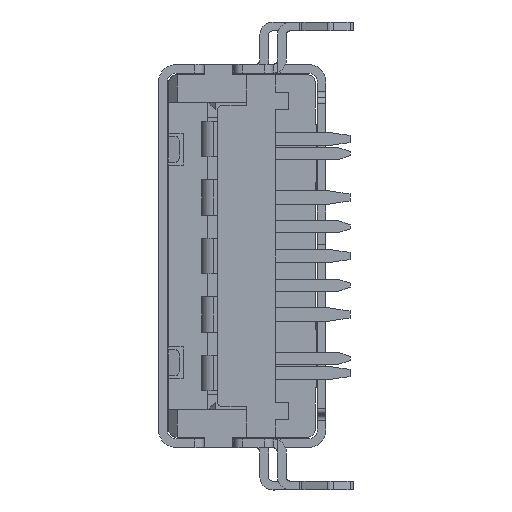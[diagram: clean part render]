
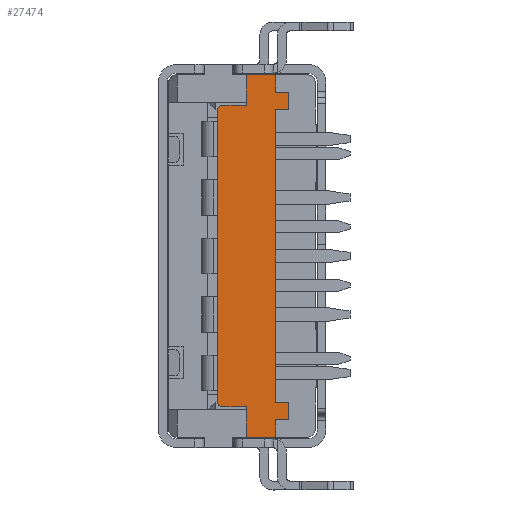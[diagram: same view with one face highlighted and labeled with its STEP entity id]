
A CAD part, left-side view. The second image highlights one B-rep face of the part: STEP entity #27474.
In plain terms, the highlighted planar face has unit normal (-1, 0, 0).
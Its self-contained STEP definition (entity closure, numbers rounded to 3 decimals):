
#2405=DIRECTION('',(0.,-1.,0.));
#2406=VECTOR('',#2405,1.);
#2407=CARTESIAN_POINT('',(-3.64,-0.15,
-6.678));
#2408=LINE('',#2407,#2406);
#2426=CARTESIAN_POINT('',(-3.64,0.65,
4.472));
#2427=DIRECTION('',(1.,0.,0.));
#2428=DIRECTION('',(0.,1.,0.));
#2429=AXIS2_PLACEMENT_3D('',#2426,#2427,#2428);
#2431=DIRECTION('',(0.,0.,1.));
#2432=VECTOR('',#2431,1.05);
#2433=CARTESIAN_POINT('',(-3.64,-0.15,
4.672));
#2434=LINE('',#2433,#2432);
#2435=DIRECTION('',(0.,-1.,0.));
#2436=VECTOR('',#2435,0.46);
#2437=CARTESIAN_POINT('',(-3.64,-1.15,
5.122));
#2438=LINE('',#2437,#2436);
#2439=DIRECTION('',(0.,0.,-1.));
#2440=VECTOR('',#2439,0.6);
#2441=CARTESIAN_POINT('',(-3.64,-1.61,
5.122));
#2442=LINE('',#2441,#2440);
#2443=DIRECTION('',(0.,1.,0.));
#2444=VECTOR('',#2443,0.46);
#2445=CARTESIAN_POINT('',(-3.64,-1.61,
4.522));
#2446=LINE('',#2445,#2444);
#2447=DIRECTION('',(0.,0.,-1.));
#2448=VECTOR('',#2447,10.);
#2449=CARTESIAN_POINT('',(-3.64,-1.15,
4.522));
#2450=LINE('',#2449,#2448);
#2451=DIRECTION('',(0.,0.,1.));
#2452=VECTOR('',#2451,1.05);
#2453=CARTESIAN_POINT('',(-3.64,-0.15,
-6.678));
#2454=LINE('',#2453,#2452);
#2455=CARTESIAN_POINT('',(-3.64,0.65,
-5.428));
#2456=DIRECTION('',(1.,0.,0.));
#2457=DIRECTION('',(0.,0.,-1.));
#2458=AXIS2_PLACEMENT_3D('',#2455,#2456,#2457);
#2488=DIRECTION('',(0.,1.,0.));
#2489=VECTOR('',#2488,0.8);
#2490=CARTESIAN_POINT('',(-3.64,-0.15,
4.672));
#2491=LINE('',#2490,#2489);
#2496=DIRECTION('',(0.,0.,-1.));
#2497=VECTOR('',#2496,9.9);
#2498=CARTESIAN_POINT('',(-3.64,0.85,
4.472));
#2499=LINE('',#2498,#2497);
#2520=DIRECTION('',(0.,-1.,0.));
#2521=VECTOR('',#2520,0.8);
#2522=CARTESIAN_POINT('',(-3.64,0.65,
-5.628));
#2523=LINE('',#2522,#2521);
#8129=DIRECTION('',(0.,1.,0.));
#8130=VECTOR('',#8129,1.);
#8131=CARTESIAN_POINT('',(-3.64,-1.15,
5.722));
#8132=LINE('',#8131,#8130);
#8198=DIRECTION('',(0.,0.,1.));
#8199=VECTOR('',#8198,0.6);
#8200=CARTESIAN_POINT('',(-3.64,-1.15,
5.122));
#8201=LINE('',#8200,#8199);
#8536=DIRECTION('',(0.,0.,1.));
#8537=VECTOR('',#8536,0.6);
#8538=CARTESIAN_POINT('',(-3.64,-1.15,
-6.678));
#8539=LINE('',#8538,#8537);
#8544=DIRECTION('',(0.,-1.,0.));
#8545=VECTOR('',#8544,0.46);
#8546=CARTESIAN_POINT('',(-3.64,-1.15,
-6.078));
#8547=LINE('',#8546,#8545);
#8656=DIRECTION('',(0.,0.,1.));
#8657=VECTOR('',#8656,0.6);
#8658=CARTESIAN_POINT('',(-3.64,-1.61,
-6.078));
#8659=LINE('',#8658,#8657);
#8668=DIRECTION('',(0.,1.,0.));
#8669=VECTOR('',#8668,0.46);
#8670=CARTESIAN_POINT('',(-3.64,-1.61,
-5.478));
#8671=LINE('',#8670,#8669);
#19503=CARTESIAN_POINT('',(-3.64,-0.15,
5.722));
#19504=VERTEX_POINT('',#19503);
#19505=CARTESIAN_POINT('',(-3.64,-0.15,
4.672));
#19506=VERTEX_POINT('',#19505);
#19551=CARTESIAN_POINT('',(-3.64,-0.15,
-5.628));
#19552=VERTEX_POINT('',#19551);
#19553=CARTESIAN_POINT('',(-3.64,-0.15,
-6.678));
#19554=VERTEX_POINT('',#19553);
#19567=CARTESIAN_POINT('',(-3.64,-1.15,
-6.678));
#19568=VERTEX_POINT('',#19567);
#19583=CARTESIAN_POINT('',(-3.64,0.85,
4.472));
#19584=CARTESIAN_POINT('',(-3.64,0.65,
4.672));
#19585=VERTEX_POINT('',#19583);
#19586=VERTEX_POINT('',#19584);
#19587=CARTESIAN_POINT('',(-3.64,-1.15,
5.722));
#19588=VERTEX_POINT('',#19587);
#19589=CARTESIAN_POINT('',(-3.64,-1.15,
5.122));
#19590=VERTEX_POINT('',#19589);
#19591=CARTESIAN_POINT('',(-3.64,-1.61,
5.122));
#19592=VERTEX_POINT('',#19591);
#19593=CARTESIAN_POINT('',(-3.64,-1.61,
4.522));
#19594=VERTEX_POINT('',#19593);
#19595=CARTESIAN_POINT('',(-3.64,-1.15,
4.522));
#19596=VERTEX_POINT('',#19595);
#19597=CARTESIAN_POINT('',(-3.64,-1.15,
-5.478));
#19598=VERTEX_POINT('',#19597);
#19599=CARTESIAN_POINT('',(-3.64,-1.61,
-5.478));
#19600=VERTEX_POINT('',#19599);
#19601=CARTESIAN_POINT('',(-3.64,-1.61,
-6.078));
#19602=VERTEX_POINT('',#19601);
#19603=CARTESIAN_POINT('',(-3.64,-1.15,
-6.078));
#19604=VERTEX_POINT('',#19603);
#19605=CARTESIAN_POINT('',(-3.64,0.65,
-5.628));
#19606=VERTEX_POINT('',#19605);
#19607=CARTESIAN_POINT('',(-3.64,0.85,
-5.428));
#19608=VERTEX_POINT('',#19607);
#27434=CARTESIAN_POINT('',(-3.64,-0.38,
-0.478));
#27435=DIRECTION('',(1.,0.,0.));
#27436=DIRECTION('',(0.,0.,1.));
#27437=AXIS2_PLACEMENT_3D('',#27434,#27435,#27436);
#27438=PLANE('',#27437);
#27440=ORIENTED_EDGE('',*,*,#27439,.T.);
#27442=ORIENTED_EDGE('',*,*,#27441,.F.);
#27443=ORIENTED_EDGE('',*,*,#27328,.T.);
#27445=ORIENTED_EDGE('',*,*,#27444,.F.);
#27447=ORIENTED_EDGE('',*,*,#27446,.F.);
#27449=ORIENTED_EDGE('',*,*,#27448,.T.);
#27451=ORIENTED_EDGE('',*,*,#27450,.T.);
#27453=ORIENTED_EDGE('',*,*,#27452,.T.);
#27455=ORIENTED_EDGE('',*,*,#27454,.T.);
#27457=ORIENTED_EDGE('',*,*,#27456,.F.);
#27459=ORIENTED_EDGE('',*,*,#27458,.F.);
#27461=ORIENTED_EDGE('',*,*,#27460,.F.);
#27463=ORIENTED_EDGE('',*,*,#27462,.F.);
#27464=ORIENTED_EDGE('',*,*,#27413,.F.);
#27465=ORIENTED_EDGE('',*,*,#27376,.T.);
#27467=ORIENTED_EDGE('',*,*,#27466,.F.);
#27469=ORIENTED_EDGE('',*,*,#27468,.T.);
#27471=ORIENTED_EDGE('',*,*,#27470,.F.);
#27472=EDGE_LOOP('',(#27440,#27442,#27443,#27445,#27447,#27449,#27451,#27453,
#27455,#27457,#27459,#27461,#27463,#27464,#27465,#27467,#27469,#27471));
#27473=FACE_OUTER_BOUND('',#27472,.F.);
#27474=ADVANCED_FACE('',(#27473),#27438,.F.);
#2430=CIRCLE('',#2429,0.2);
#2459=CIRCLE('',#2458,0.2);
#27328=EDGE_CURVE('',#19506,#19504,#2434,.T.);
#27376=EDGE_CURVE('',#19554,#19552,#2454,.T.);
#27413=EDGE_CURVE('',#19554,#19568,#2408,.T.);
#27439=EDGE_CURVE('',#19585,#19586,#2430,.T.);
#27441=EDGE_CURVE('',#19506,#19586,#2491,.T.);
#27444=EDGE_CURVE('',#19588,#19504,#8132,.T.);
#27446=EDGE_CURVE('',#19590,#19588,#8201,.T.);
#27448=EDGE_CURVE('',#19590,#19592,#2438,.T.);
#27450=EDGE_CURVE('',#19592,#19594,#2442,.T.);
#27452=EDGE_CURVE('',#19594,#19596,#2446,.T.);
#27454=EDGE_CURVE('',#19596,#19598,#2450,.T.);
#27456=EDGE_CURVE('',#19600,#19598,#8671,.T.);
#27458=EDGE_CURVE('',#19602,#19600,#8659,.T.);
#27460=EDGE_CURVE('',#19604,#19602,#8547,.T.);
#27462=EDGE_CURVE('',#19568,#19604,#8539,.T.);
#27466=EDGE_CURVE('',#19606,#19552,#2523,.T.);
#27468=EDGE_CURVE('',#19606,#19608,#2459,.T.);
#27470=EDGE_CURVE('',#19585,#19608,#2499,.T.);
